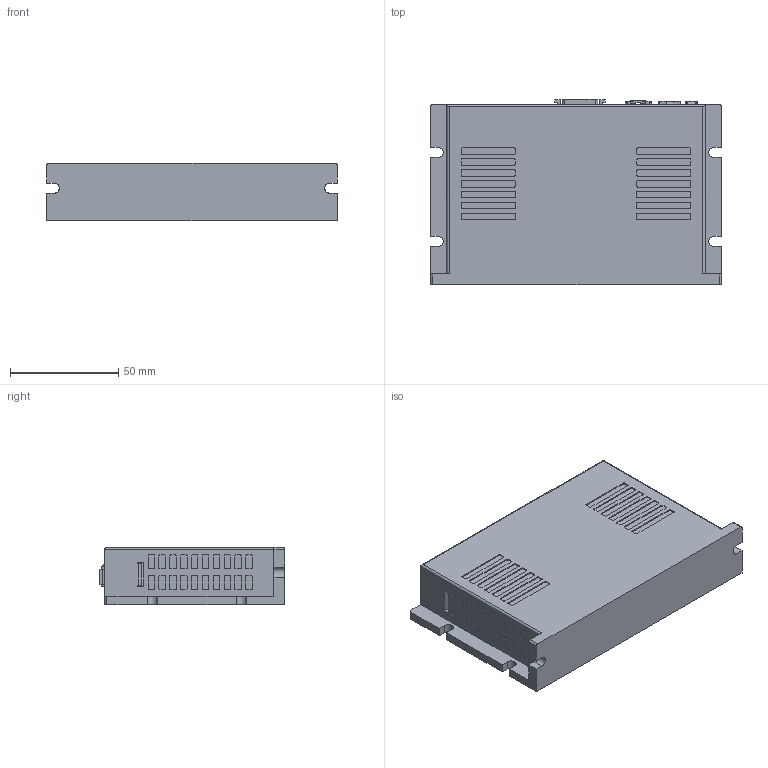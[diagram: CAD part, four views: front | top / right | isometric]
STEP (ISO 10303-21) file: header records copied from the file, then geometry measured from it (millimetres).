
FILE_DESCRIPTION(/* description */ (''),/* implementation_level */ '2;1');
FILE_NAME(/* name */ '\\EMN0D5F01\rp_inventor\RP Mechanical Design\Wiley\Updated Models\ECLD-4DC-PC.stp',/* time_stamp */ '2016-10-27T14:22:45-07:00',/* author */ ('JDB'),/* organization */ ('Parker Hannifin Corp'),/* preprocessor_version */ 'ST-DEVELOPER v15.2',/* originating_system */ 'Autodesk Inventor 2014',/* authorisation */ '');
FILE_SCHEMA (('CONFIG_CONTROL_DESIGN'));
Length unit declared in the file: inch
Products named in the file (1): ECLD-4DC-PC_sw
Bounding box: 134 x 85.5 x 26.5 mm (x, y, z)
Volume: 88724.5 mm3; surface area: 69781.7 mm2
Topology: 11 solids, 12 shells, 1781 faces, 4721 edges, 3086 vertices
Faces by surface type: plane 1303, cylinder 452, cone 14, bspline 10, torus 2
Full cylindrical faces by diameter (mm): 0.635 x1, 0.7 x8, 1 x1, 2.108 x2, 2.489 x4, 2.5 x2, 3 x4, 3.4 x4, 5 x10, 8 x1
Entity records: 55022 total; most frequent: CARTESIAN_POINT 10203, ORIENTED_EDGE 9316, DIRECTION 9127, EDGE_CURVE 4651, LINE 3669, VECTOR 3669, VERTEX_POINT 3074, AXIS2_PLACEMENT_3D 2729
